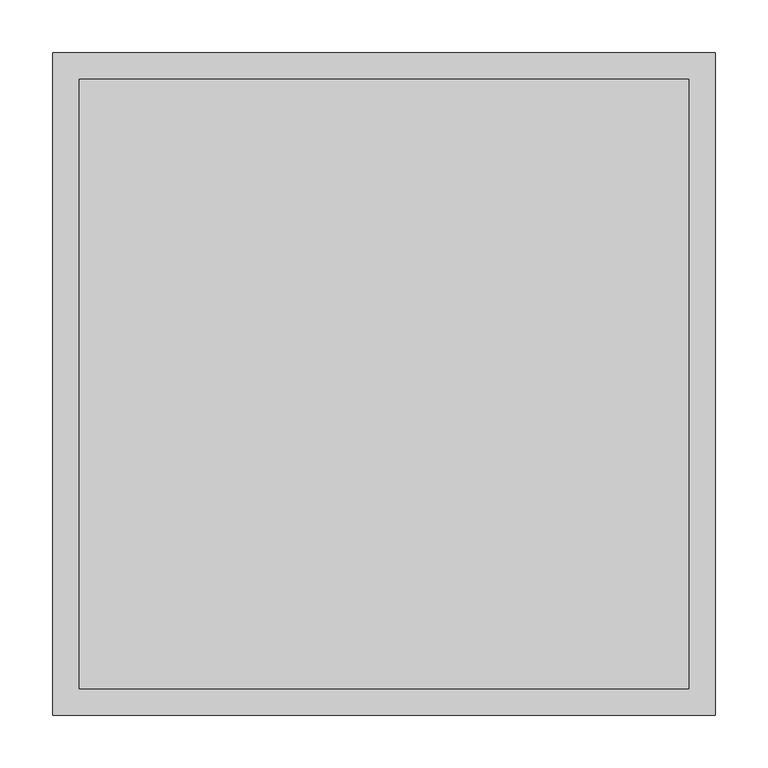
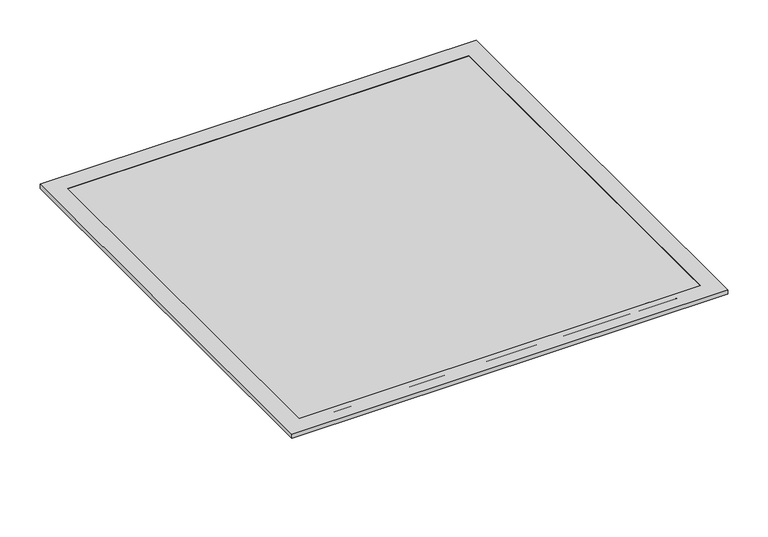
"""IFC4 building model written with IfcOpenShell, lengths in millimetres: air terminal geometry, Titus-Round_Neck_Supply_Diffuser-PCS_Surface_Mount : PCS AA-14_24x24."""

from ifc_helpers import new_model, si_unit, point, frame, origin, origin_2d, place, context, project, spatial, polyline, circle_curve, trimmed, segment, composite_curve, outline, extrude, faceted_brep, source, transform, mapped, element, save


def air_terminal_1ddfe03e(model_context):
    return source(origin(), model_context, "Body", "SolidModel", [
        faceted_brep([(-314.325, 314.325, 0.0), (-314.325, 314.325, 6.35), (314.325, 314.325, 6.35), (314.325, 314.325, 0.0), (-288.925, 288.925, 6.35), (-288.925, 288.925, 5.55625), (288.925, 288.925, 5.55625), (288.925, 288.925, 6.35), (314.325, -314.325, 6.35), (314.325, -314.325, 0.0), (288.925, -288.925, 5.55625), (288.925, -288.925, 6.35), (-314.325, -314.325, 6.35), (-314.325, -314.325, 0.0), (-288.925, -288.925, 5.55625), (-288.925, -288.925, 6.35), (-313.53125, 313.53125, 0.0), (-313.53125, -313.53125, 0.0), (313.53125, -313.53125, 0.0), (313.53125, 313.53125, 0.0), (-313.53125, 313.53125, 5.55625), (313.53125, 313.53125, 5.55625), (313.53125, -313.53125, 5.55625), (-313.53125, -313.53125, 5.55625)], [[[0, 1, 2, 3]], [[4, 5, 6, 7]], [[3, 2, 8, 9]], [[7, 6, 10, 11]], [[9, 8, 12, 13]], [[11, 10, 14, 15]], [[1, 12, 8, 2], [7, 11, 15, 4]], [[13, 12, 1, 0]], [[3, 9, 13, 0], [16, 17, 18, 19]], [[15, 14, 5, 4]], [[20, 16, 19, 21]], [[21, 19, 18, 22]], [[22, 18, 17, 23]], [[23, 17, 16, 20]], [[21, 22, 23, 20], [5, 14, 10, 6]]]),
        faceted_brep([(228.6, 228.6, -50.8), (228.6, -228.6, -50.8), (-228.6, -228.6, -50.8), (-228.6, 228.6, -50.8), (-267.5193548, 267.5193548, -19.05), (267.5193548, 267.5193548, -19.05), (-267.5193548, -267.5193548, -19.05), (267.5193548, -267.5193548, -19.05), (288.925, 288.925, -19.05), (288.925, -288.925, -19.05), (-288.925, -288.925, -19.05), (-288.925, 288.925, -19.05), (-288.925, 288.925, -1.5875), (-288.925, 288.925, 4.7625), (288.925, 288.925, 4.7625), (288.925, 288.925, -1.5875), (-288.925, -288.925, -1.5875), (-288.925, -288.925, 4.7625), (288.925, -288.925, -1.5875), (288.925, -288.925, 4.7625), (301.625, 301.625, 5.55625), (-301.625, 301.625, 5.55625), (-301.625, -301.625, 5.55625), (301.625, -301.625, 5.55625), (301.625, 301.625, 4.7625), (301.625, -301.625, 4.7625), (-301.625, -301.625, 4.7625), (-301.625, 301.625, 4.7625)], [[[0, 1, 2, 3]], [[0, 3, 4, 5]], [[3, 2, 6, 4]], [[2, 1, 7, 6]], [[1, 0, 5, 7]], [[8, 9, 10, 11], [5, 4, 6, 7]], [[8, 11, 12, 13, 14, 15]], [[11, 10, 16, 17, 13, 12]], [[10, 9, 18, 19, 17, 16]], [[9, 8, 15, 14, 19, 18]], [[20, 21, 22, 23]], [[24, 25, 26, 27], [14, 13, 17, 19]], [[21, 20, 24, 27]], [[22, 21, 27, 26]], [[23, 22, 26, 25]], [[20, 23, 25, 24]]]),
        extrude(outline(polyline([(288.925, 288.925), (288.925, -288.925), (-288.925, -288.925), (-288.925, 288.925), (288.925, 288.925)])), frame((0.0, 0.0, 5.55625), z_axis=(0.0, 0.0, 1.0), x_axis=(1.0, 0.0, 0.0)), (0.0, 0.0, 1.0), 0.79375),
        extrude(outline(composite_curve([segment(trimmed(circle_curve(origin_2d(), 176.2125), [point((-176.2125, 0.0))], [point((176.2125, 0.0))], False, "CARTESIAN"), True, "CONTINUOUS"), segment(trimmed(circle_curve(origin_2d(), 176.2125), [point((176.2125, 0.0))], [point((-176.2125, 0.0))], False, "CARTESIAN"), True, "CONTINUOUS")], self_intersect=False), holes=[composite_curve([segment(trimmed(circle_curve(origin_2d(), 174.625), [point((-174.625, 0.0))], [point((174.625, 0.0))], True, "CARTESIAN"), True, "CONTINUOUS"), segment(trimmed(circle_curve(origin_2d(), 174.625), [point((174.625, 0.0))], [point((-174.625, 0.0))], True, "CARTESIAN"), True, "CONTINUOUS")], self_intersect=False)]), frame((0.0, 0.0, -88.9), z_axis=(0.0, 0.0, 1.0), x_axis=(1.0, 0.0, 0.0)), (0.0, 0.0, 1.0), 38.1),
    ])


if __name__ == "__main__":
    model = new_model("IFC4")
    model_context = context("Model", 3, world=origin())
    ifc_project = project(units=[si_unit("LENGTHUNIT", "METRE", prefix="MILLI")], contexts=[model_context])
    site = spatial("IfcSite", under=ifc_project)
    building = spatial("IfcBuilding", under=site)
    placement = place(None, origin())
    air_terminal_shape = air_terminal_1ddfe03e(model_context)
    element("IfcAirTerminal", 1, ObjectType="Titus-Round_Neck_Supply_Diffuser-PCS_Surface_Mount : PCS AA-14_24x24", at=placement, inside=building, context=model_context, shape_type="MappedRepresentation", body=[
        mapped(air_terminal_shape, transform((0.0, 0.0, 0.0), x_axis=(1.0, 0.0, 0.0), y_axis=(0.0, 1.0, 0.0), z_axis=(0.0, 0.0, 1.0))),
    ])
    save(model, "model.ifc")
